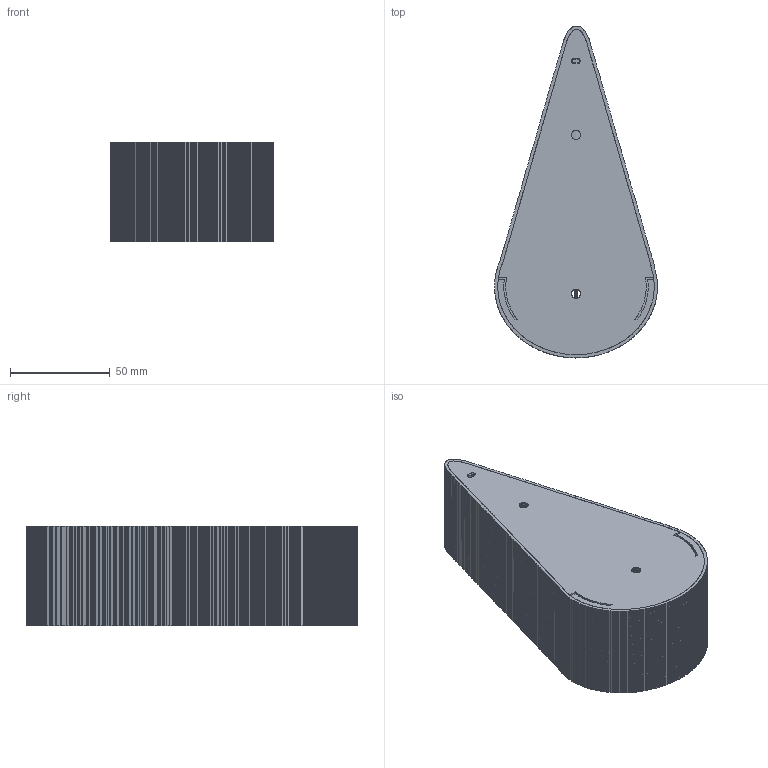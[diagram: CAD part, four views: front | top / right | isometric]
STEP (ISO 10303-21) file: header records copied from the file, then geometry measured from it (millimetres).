
FILE_DESCRIPTION(('Open CASCADE Model'),'2;1');
FILE_NAME('pinrose_unit_v6','2026-11-23T16:47:39',('Author'),( 'Open CASCADE'),'Open CASCADE STEP processor 8.0','build123d', 'Unknown');
FILE_SCHEMA(('AUTOMOTIVE_DESIGN { 1 0 10303 214 1 1 1 1 }'));
Length unit declared in the file: millimetre
Products named in the file (9): pinrose_unit_v6; pinrus_v6_cover; pinruswall_v6_bracket; motor_strap_v6_a; motor_strap_v6_b; pinruso_ring; motor_placeholder_D22x55; coupler_placeholder; crank_wire_placeholder
Assembly tree (8 placements, depth 2):
  pinrose_unit_v6
    pinrus_v6_cover
    pinruswall_v6_bracket
    motor_strap_v6_a
    motor_strap_v6_b
    pinruso_ring
    motor_placeholder_D22x55
    coupler_placeholder
    crank_wire_placeholder
Bounding box: 81.6 x 166.03 x 50 mm (x, y, z)
Volume: 110668.6 mm3; surface area: 89834.1 mm2
Topology: 8 solids, 8 shells, 7896 faces, 21020 edges, 13153 vertices
Faces by surface type: plane 7892, cylinder 4
Full cylindrical faces by diameter (mm): 4 x1, 7 x1, 10 x1, 22 x1
Entity records: 508006 total; most frequent: CARTESIAN_POINT 86436, DIRECTION 76560, LINE 60726, VECTOR 60726, ORIENTED_EDGE 42040, PCURVE 42040, DEFINITIONAL_REPRESENTATION 42040, EDGE_CURVE 21020
